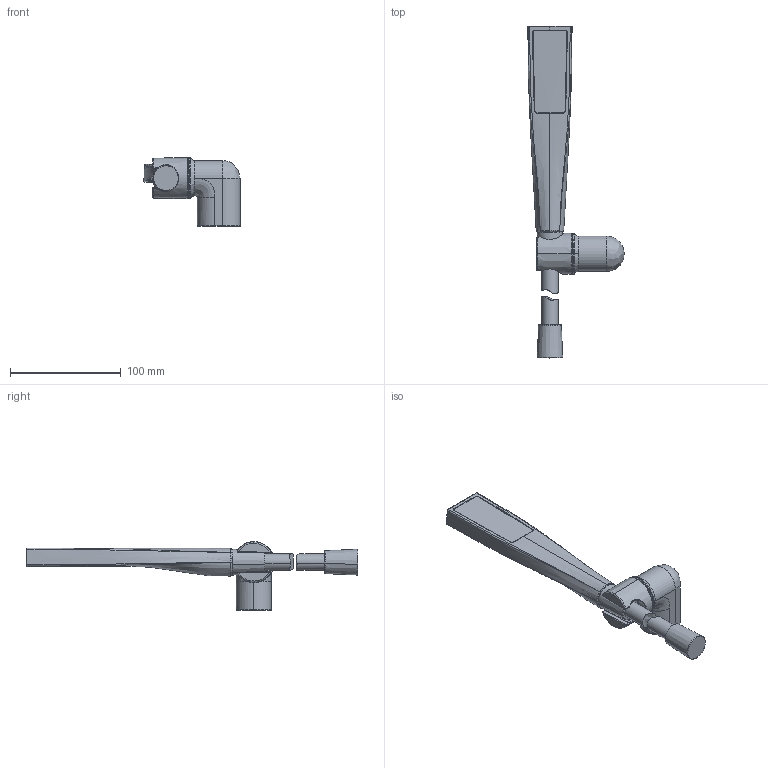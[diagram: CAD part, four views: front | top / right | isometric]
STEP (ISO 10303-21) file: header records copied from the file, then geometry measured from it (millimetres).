
FILE_DESCRIPTION (( 'STEP AP203' ), '1' );
FILE_NAME ('47170130(2024).STEP', '2024-04-17T10:27:59', ( '' ), ( '' ), 'SwSTEP 2.0', 'SolidWorks 2016', '' );
FILE_SCHEMA (( 'CONFIG_CONTROL_DESIGN' ));
Length unit declared in the file: millimetre
Products named in the file (1): 47170130(2024)
Bounding box: 86.88 x 299.5 x 62.06 mm (x, y, z)
Volume: 215017.6 mm3; surface area: 42147.6 mm2
Topology: 5 solids, 5 shells, 202 faces, 455 edges, 265 vertices
Faces by surface type: bspline 114, cylinder 25, plane 22, sphere 22, torus 13, cone 6
Entity records: 16301 total; most frequent: CARTESIAN_POINT 12545, ORIENTED_EDGE 908, DIRECTION 577, EDGE_CURVE 454, VERTEX_POINT 265, AXIS2_PLACEMENT_3D 261, EDGE_LOOP 205, ADVANCED_FACE 202
